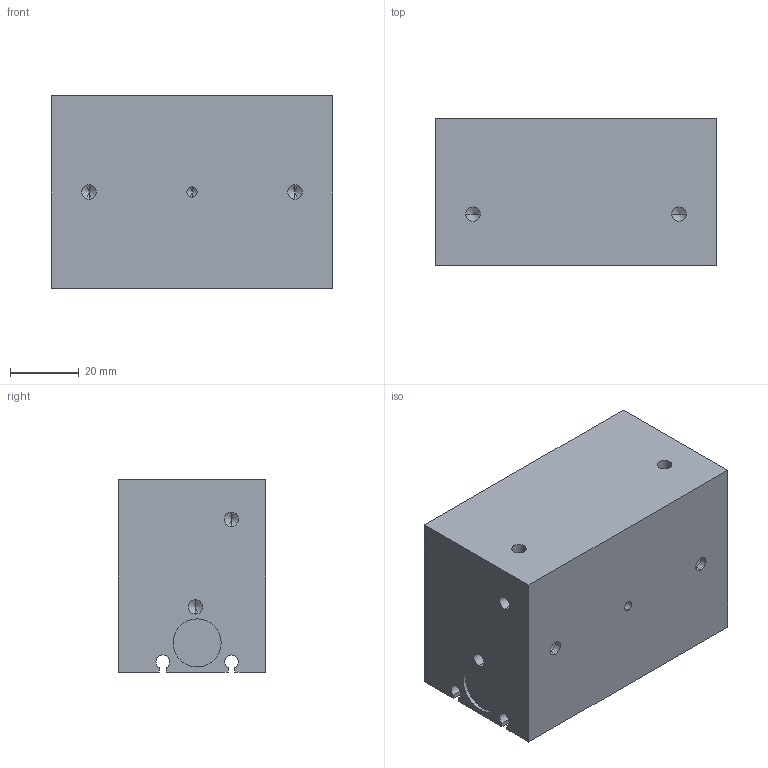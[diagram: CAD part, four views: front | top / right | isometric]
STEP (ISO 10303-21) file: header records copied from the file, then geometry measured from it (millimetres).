
FILE_DESCRIPTION (( 'STEP AP203' ), '1' );
FILE_NAME ('GHU 20 CORP.STEP', '2012-12-14T10:32:23', ( '' ), ( '' ), 'SwSTEP 2.0', 'SolidWorks 2010', '' );
FILE_SCHEMA (( 'CONFIG_CONTROL_DESIGN' ));
Length unit declared in the file: millimetre
Products named in the file (1): GHU 20 CORP
Bounding box: 82 x 43 x 56 mm (x, y, z)
Volume: 169394.4 mm3; surface area: 25774.1 mm2
Topology: 1 solids, 1 shells, 61 faces, 154 edges, 91 vertices
Faces by surface type: cylinder 28, plane 19, cone 14
Entity records: 1811 total; most frequent: DIRECTION 320, CARTESIAN_POINT 293, ORIENTED_EDGE 280, EDGE_CURVE 140, AXIS2_PLACEMENT_3D 118, VERTEX_POINT 91, VECTOR 84, LINE 84
